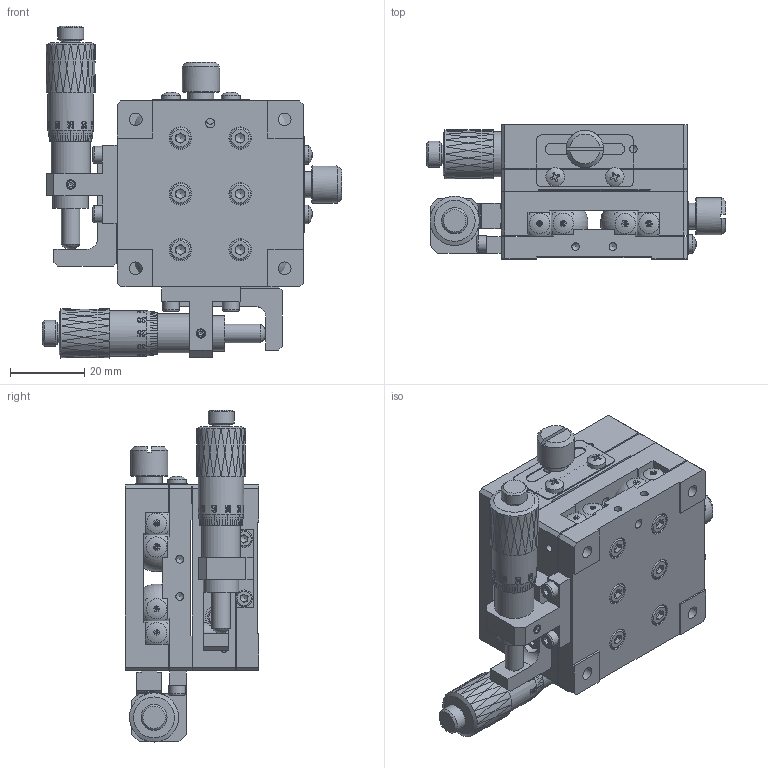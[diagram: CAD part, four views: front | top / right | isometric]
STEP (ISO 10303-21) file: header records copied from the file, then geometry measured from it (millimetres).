
FILE_DESCRIPTION (( 'STEP AP203' ), '1' );
FILE_NAME ('BPTB50.STEP', '2024-07-24T07:41:02', ( 'Windows User' ), ( 'P R C' ), 'SwSTEP 2.0', 'SolidWorks 2024', '' );
FILE_SCHEMA (( 'CONFIG_CONTROL_DESIGN' ));
Products named in the file (1): BPTB50
Bounding box: 80.4 x 36 x 89.2 mm (x, y, z)
Volume: 90750.2 mm3; surface area: 78249 mm2
Topology: 86 solids, 86 shells, 3388 faces, 8046 edges, 5122 vertices
Faces by surface type: plane 1502, bspline 790, cylinder 598, cone 420, torus 72, sphere 6
Full cylindrical faces by diameter (mm): 2.05 x32, 2.4 x4, 2.5 x38, 2.55 x24, 2.95 x18, 3 x52, 3.1 x4, 3.2 x4, 3.4 x32, 4.4 x24, 4.5 x8, 5 x10, 5.5 x48, 5.8 x4, 6 x32, 7 x4, 8.5 x2, 9.5 x4, 10 x2, 10.5 x2, 12.2 x2
Entity records: 155329 total; most frequent: CARTESIAN_POINT 88295, ORIENTED_EDGE 14308, DIRECTION 10984, EDGE_CURVE 7154, VERTEX_POINT 4888, EDGE_LOOP 4494, AXIS2_PLACEMENT_3D 4201, FACE_OUTER_BOUND 3764
